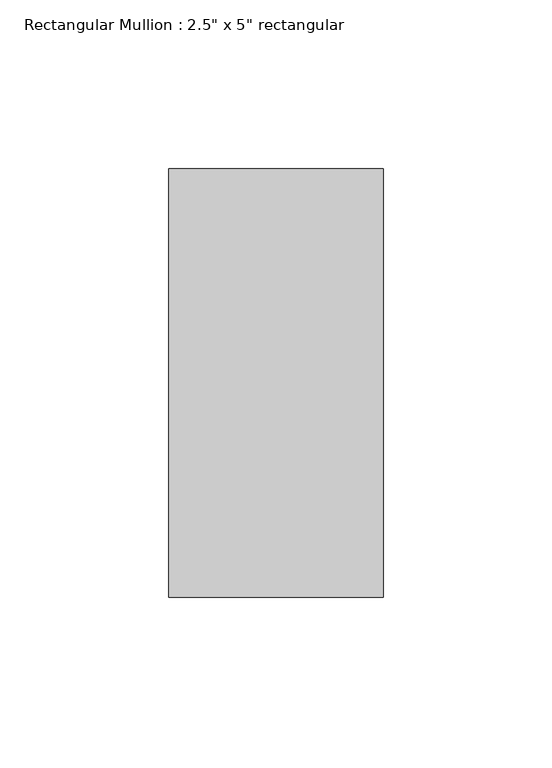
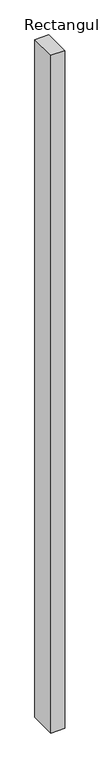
"""IFC4 building model written with IfcOpenShell, lengths in millimetres: member geometry."""

from ifc_helpers import new_model, si_unit, frame, origin, place, context, project, spatial, polyline, outline, extrude, source, transform, mapped, element, save


def member_3efaebad(model_context):
    return source(origin(), model_context, "Body", "SweptSolid", [
        extrude(outline(polyline([(31.75, 63.5), (31.75, -63.5), (-31.75, -63.5), (-31.75, 63.5), (31.75, 63.5)])), frame((0.0, 0.0, -3266.6321084), z_axis=(0.0, 0.0, 1.0), x_axis=(1.0, 0.0, 0.0)), (0.0, 0.0, 1.0), 3266.6321084),
    ])


if __name__ == "__main__":
    model = new_model("IFC4")
    model_context = context("Model", 3, world=origin())
    ifc_project = project(units=[si_unit("LENGTHUNIT", "METRE", prefix="MILLI")], contexts=[model_context])
    site = spatial("IfcSite", under=ifc_project)
    building = spatial("IfcBuilding", under=site)
    placement = place(None, origin())
    member_shape = member_3efaebad(model_context)
    element("IfcMember", 1, ObjectType="Rectangular Mullion : 2.5\" x 5\" rectangular", at=placement, inside=building, context=model_context, shape_type="MappedRepresentation", body=[
        mapped(member_shape, transform((0.0, 0.0, 0.0), x_axis=(1.0, 0.0, 0.0), y_axis=(0.0, 1.0, 0.0), z_axis=(0.0, 0.0, 1.0))),
    ])
    save(model, "model.ifc")
